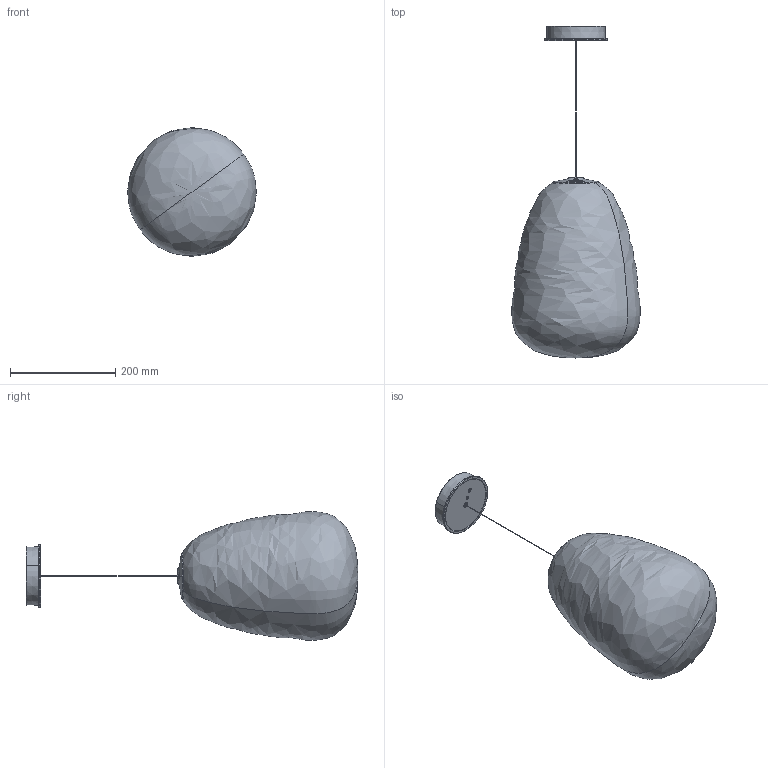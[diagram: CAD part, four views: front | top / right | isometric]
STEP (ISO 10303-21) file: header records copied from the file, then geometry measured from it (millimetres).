
FILE_DESCRIPTION (( 'STEP AP214' ), '1' );
FILE_NAME ('244_1_S_PL_3D.STEP', '2021-04-29T13:15:07', ( '' ), ( '' ), 'SwSTEP 2.0', 'SolidWorks 2021', '' );
FILE_SCHEMA (( 'AUTOMOTIVE_DESIGN' ));
Length unit declared in the file: millimetre
Products named in the file (1): 244_1_S_PL_3D
Bounding box: 244.32 x 629.74 x 244.27 mm (x, y, z)
Volume: 1261416.4 mm3; surface area: 547578 mm2
Topology: 6 solids, 6 shells, 557 faces, 1424 edges, 881 vertices
Faces by surface type: plane 185, bspline 160, cylinder 80, torus 76, cone 40, sphere 16
Entity records: 30470 total; most frequent: CARTESIAN_POINT 11970, ORIENTED_EDGE 2792, DIRECTION 2204, EDGE_CURVE 1396, VERTEX_POINT 881, AXIS2_PLACEMENT_3D 859, EDGE_LOOP 623, UNCERTAINTY_MEASURE_WITH_UNIT 565
